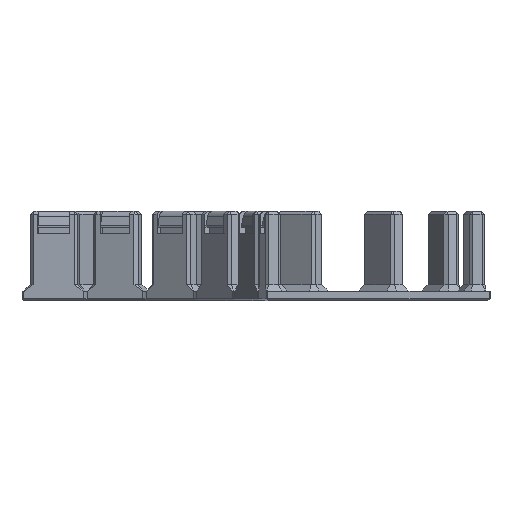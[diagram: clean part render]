
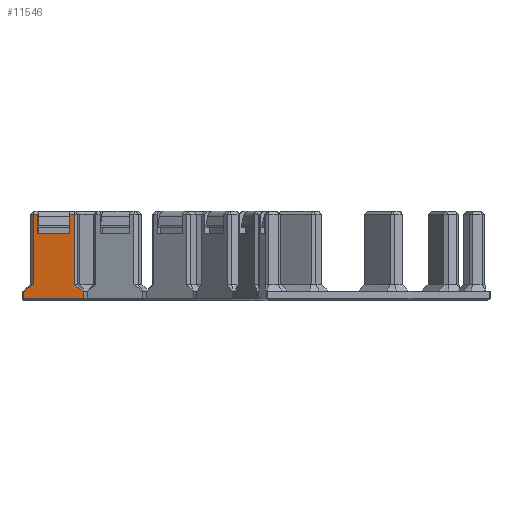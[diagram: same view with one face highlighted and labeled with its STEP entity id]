
A CAD part, front view. The second image highlights one B-rep face of the part: STEP entity #11546.
In plain terms, the highlighted planar face has unit normal (-0.131, -0.991, 0).
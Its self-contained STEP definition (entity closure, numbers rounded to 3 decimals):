
#470 = DIRECTION ( 'NONE',  ( 0., 0., -1. ) ) ;
#600 = EDGE_CURVE ( 'NONE', #17287, #9803, #12243, .T. ) ;
#662 = CARTESIAN_POINT ( 'NONE',  ( 16.359, -2.154, 27. ) ) ;
#836 = VERTEX_POINT ( 'NONE', #14610 ) ;
#939 = ORIENTED_EDGE ( 'NONE', *, *, #2737, .T. ) ;
#1104 = CARTESIAN_POINT ( 'NONE',  ( 0.345, -0.045, 0.6 ) ) ;
#1150 = VECTOR ( 'NONE', #4041, 1000. ) ;
#1560 = EDGE_CURVE ( 'NONE', #17049, #3515, #10052, .T. ) ;
#1690 = LINE ( 'NONE', #7118, #3937 ) ;
#2037 = ORIENTED_EDGE ( 'NONE', *, *, #10254, .T. ) ;
#2188 = EDGE_CURVE ( 'NONE', #17287, #15227, #9462, .T. ) ;
#2306 = DIRECTION ( 'NONE',  ( 0., 0., 1. ) ) ;
#2358 = EDGE_CURVE ( 'NONE', #9519, #17418, #9805, .T. ) ;
#2430 = ORIENTED_EDGE ( 'NONE', *, *, #1560, .T. ) ;
#2439 = CARTESIAN_POINT ( 'NONE',  ( 14.785, -1.947, 21. ) ) ;
#2737 = EDGE_CURVE ( 'NONE', #836, #17049, #7016, .T. ) ;
#2763 = EDGE_CURVE ( 'NONE', #9886, #5549, #1690, .T. ) ;
#2938 = CARTESIAN_POINT ( 'NONE',  ( 3.47, -0.457, 5. ) ) ;
#3166 = DIRECTION ( 'NONE',  ( 0.991, -0.131, 0. ) ) ;
#3515 = VERTEX_POINT ( 'NONE', #11132 ) ;
#3831 = DIRECTION ( 'NONE',  ( 0.131, 0.991, 0. ) ) ;
#3891 = EDGE_LOOP ( 'NONE', ( #16572, #6356, #10062, #2037, #15194, #939, #2430, #8321, #17414, #6090, #6699, #10845, #9797 ) ) ;
#3937 = VECTOR ( 'NONE', #12632, 1000. ) ;
#4041 = DIRECTION ( 'NONE',  ( 0., 0., 1. ) ) ;
#4374 = EDGE_CURVE ( 'NONE', #9886, #7009, #15241, .T. ) ;
#4679 = EDGE_CURVE ( 'NONE', #17418, #5549, #7757, .T. ) ;
#4829 = VECTOR ( 'NONE', #16423, 1000. ) ;
#5257 = EDGE_CURVE ( 'NONE', #13643, #836, #8528, .T. ) ;
#5549 = VERTEX_POINT ( 'NONE', #5892 ) ;
#5574 = LINE ( 'NONE', #11368, #11008 ) ;
#5800 = CARTESIAN_POINT ( 'NONE',  ( 3.47, -0.457, 3. ) ) ;
#5837 = LINE ( 'NONE', #7523, #12529 ) ;
#5892 = CARTESIAN_POINT ( 'NONE',  ( 0.666, -0.088, 3. ) ) ;
#6090 = ORIENTED_EDGE ( 'NONE', *, *, #600, .T. ) ;
#6156 = CARTESIAN_POINT ( 'NONE',  ( 0., 0., 3. ) ) ;
#6246 = VECTOR ( 'NONE', #470, 1000. ) ;
#6325 = DIRECTION ( 'NONE',  ( -0.81, 0.107, -0.577 ) ) ;
#6356 = ORIENTED_EDGE ( 'NONE', *, *, #4374, .T. ) ;
#6407 = CARTESIAN_POINT ( 'NONE',  ( 4.978, -0.655, 21. ) ) ;
#6699 = ORIENTED_EDGE ( 'NONE', *, *, #13887, .T. ) ;
#6878 = CARTESIAN_POINT ( 'NONE',  ( 0.345, -0.045, 3. ) ) ;
#7009 = VERTEX_POINT ( 'NONE', #1104 ) ;
#7016 = LINE ( 'NONE', #15214, #9923 ) ;
#7092 = DIRECTION ( 'NONE',  ( -0.991, 0.131, 0. ) ) ;
#7118 = CARTESIAN_POINT ( 'NONE',  ( 0., 0., 3. ) ) ;
#7151 = DIRECTION ( 'NONE',  ( 0., 0., -1. ) ) ;
#7172 = CARTESIAN_POINT ( 'NONE',  ( 19.163, -2.523, -115.025 ) ) ;
#7523 = CARTESIAN_POINT ( 'NONE',  ( 0., 0., 0.6 ) ) ;
#7581 = FACE_OUTER_BOUND ( 'NONE', #3891, .T. ) ;
#7757 = LINE ( 'NONE', #11761, #15385 ) ;
#8321 = ORIENTED_EDGE ( 'NONE', *, *, #9719, .F. ) ;
#8528 = LINE ( 'NONE', #14299, #16238 ) ;
#8537 = VECTOR ( 'NONE', #10975, 1000. ) ;
#8604 = LINE ( 'NONE', #7172, #4829 ) ;
#8708 = DIRECTION ( 'NONE',  ( -0.991, 0.131, 0. ) ) ;
#9134 = AXIS2_PLACEMENT_3D ( 'NONE', #6156, #3831, #13111 ) ;
#9462 = LINE ( 'NONE', #9727, #8537 ) ;
#9519 = VERTEX_POINT ( 'NONE', #13985 ) ;
#9719 = EDGE_CURVE ( 'NONE', #15227, #3515, #10233, .T. ) ;
#9727 = CARTESIAN_POINT ( 'NONE',  ( 14.785, -1.947, 21. ) ) ;
#9797 = ORIENTED_EDGE ( 'NONE', *, *, #4679, .T. ) ;
#9803 = VERTEX_POINT ( 'NONE', #14661 ) ;
#9805 = LINE ( 'NONE', #5800, #6246 ) ;
#9886 = VERTEX_POINT ( 'NONE', #15388 ) ;
#9923 = VECTOR ( 'NONE', #11131, 1000. ) ;
#10052 = LINE ( 'NONE', #16458, #14769 ) ;
#10062 = ORIENTED_EDGE ( 'NONE', *, *, #11012, .T. ) ;
#10233 = LINE ( 'NONE', #11742, #17599 ) ;
#10254 = EDGE_CURVE ( 'NONE', #14382, #13643, #8604, .T. ) ;
#10280 = CARTESIAN_POINT ( 'NONE',  ( 19.163, -2.523, 0.6 ) ) ;
#10845 = ORIENTED_EDGE ( 'NONE', *, *, #2358, .T. ) ;
#10975 = DIRECTION ( 'NONE',  ( 0.991, -0.131, 0. ) ) ;
#11008 = VECTOR ( 'NONE', #7092, 1000. ) ;
#11012 = EDGE_CURVE ( 'NONE', #7009, #14382, #5837, .T. ) ;
#11131 = DIRECTION ( 'NONE',  ( 0., 0., 1. ) ) ;
#11132 = CARTESIAN_POINT ( 'NONE',  ( 14.785, -1.947, 27. ) ) ;
#11200 = DIRECTION ( 'NONE',  ( -0.81, 0.107, 0.577 ) ) ;
#11368 = CARTESIAN_POINT ( 'NONE',  ( 0., 0., 27. ) ) ;
#11546 = ADVANCED_FACE ( 'NONE', ( #7581 ), #13013, .F. ) ;
#11556 = CARTESIAN_POINT ( 'NONE',  ( 19.163, -2.523, 3. ) ) ;
#11742 = CARTESIAN_POINT ( 'NONE',  ( 14.785, -1.947, 21. ) ) ;
#11761 = CARTESIAN_POINT ( 'NONE',  ( 0.222, -0.029, 2.683 ) ) ;
#12243 = LINE ( 'NONE', #12332, #1150 ) ;
#12332 = CARTESIAN_POINT ( 'NONE',  ( 4.978, -0.655, 21. ) ) ;
#12529 = VECTOR ( 'NONE', #3166, 1000. ) ;
#12632 = DIRECTION ( 'NONE',  ( 0.991, -0.131, 0. ) ) ;
#13013 = PLANE ( 'NONE',  #9134 ) ;
#13111 = DIRECTION ( 'NONE',  ( -0.991, 0.131, 0. ) ) ;
#13643 = VERTEX_POINT ( 'NONE', #11556 ) ;
#13887 = EDGE_CURVE ( 'NONE', #9803, #9519, #5574, .T. ) ;
#13985 = CARTESIAN_POINT ( 'NONE',  ( 3.47, -0.457, 27. ) ) ;
#14299 = CARTESIAN_POINT ( 'NONE',  ( 6.388, -0.841, 12.112 ) ) ;
#14382 = VERTEX_POINT ( 'NONE', #10280 ) ;
#14503 = VECTOR ( 'NONE', #7151, 1000. ) ;
#14610 = CARTESIAN_POINT ( 'NONE',  ( 16.359, -2.154, 5. ) ) ;
#14661 = CARTESIAN_POINT ( 'NONE',  ( 4.978, -0.655, 27. ) ) ;
#14769 = VECTOR ( 'NONE', #8708, 1000. ) ;
#15194 = ORIENTED_EDGE ( 'NONE', *, *, #5257, .T. ) ;
#15214 = CARTESIAN_POINT ( 'NONE',  ( 16.359, -2.154, 3. ) ) ;
#15227 = VERTEX_POINT ( 'NONE', #2439 ) ;
#15241 = LINE ( 'NONE', #6878, #14503 ) ;
#15385 = VECTOR ( 'NONE', #6325, 1000. ) ;
#15388 = CARTESIAN_POINT ( 'NONE',  ( 0.345, -0.045, 3. ) ) ;
#16238 = VECTOR ( 'NONE', #11200, 1000. ) ;
#16423 = DIRECTION ( 'NONE',  ( 0., 0., 1. ) ) ;
#16458 = CARTESIAN_POINT ( 'NONE',  ( 0., 0., 27. ) ) ;
#16572 = ORIENTED_EDGE ( 'NONE', *, *, #2763, .F. ) ;
#17049 = VERTEX_POINT ( 'NONE', #662 ) ;
#17287 = VERTEX_POINT ( 'NONE', #6407 ) ;
#17414 = ORIENTED_EDGE ( 'NONE', *, *, #2188, .F. ) ;
#17418 = VERTEX_POINT ( 'NONE', #2938 ) ;
#17599 = VECTOR ( 'NONE', #2306, 1000. ) ;
